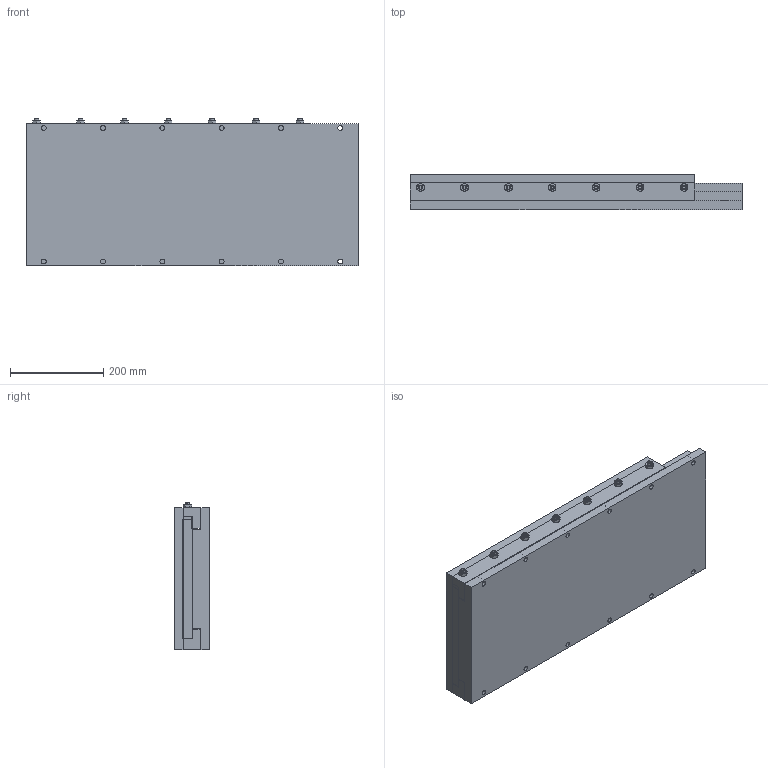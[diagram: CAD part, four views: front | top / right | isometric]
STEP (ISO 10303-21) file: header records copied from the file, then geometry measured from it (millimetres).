
FILE_DESCRIPTION (( 'STEP AP214' ), '1' );
FILE_NAME ('SW12-SL24-BL28.STEP', '2010-10-04T18:04:37', ( ' ' ), ( '' ), 'SwSTEP 2.0', 'SolidWorks 2010', '' );
FILE_SCHEMA (( 'AUTOMOTIVE_DESIGN' ));
Length unit declared in the file: inch
Products named in the file (11): _MSHXNUT_MSHXNUT 0.375-24-D-N; Gen2 Bar_12x24 BAR; Gen2 Adj Gib_12x24 ADJ GIB; _SSCUPSOC_SSCUPSKT 0.375-24x1.25-HX-N; Gen2 Baseplate_12x28 BASE; Gen2 BASE_12x28 BASE; SW12-SL24-BL28; Gen2 Top plate_12x24 TPLATE; Gen2 SADDLE_12x24 SADDLE; Gen2 Hardplate_12x28 HPLATE; Gen2 Gib_12x24 GIB
Assembly tree (22 placements, depth 3):
  SW12-SL24-BL28
    Gen2 SADDLE_12x24 SADDLE
      _SSCUPSOC_SSCUPSKT 0.375-24x1.25-HX-N  x7
      _MSHXNUT_MSHXNUT 0.375-24-D-N  x7
      Gen2 Gib_12x24 GIB
      Gen2 Top plate_12x24 TPLATE
      Gen2 Bar_12x24 BAR
      Gen2 Adj Gib_12x24 ADJ GIB
    Gen2 BASE_12x28 BASE
      Gen2 Hardplate_12x28 HPLATE
      Gen2 Baseplate_12x28 BASE
Bounding box: 711.2 x 76.2 x 316.71 mm (x, y, z)
Volume: 15503214.3 mm3; surface area: 1991734.8 mm2
Topology: 25 solids, 25 shells, 493 faces, 1104 edges, 673 vertices
Faces by surface type: plane 209, cone 154, cylinder 130
Entity records: 7663 total; most frequent: CARTESIAN_POINT 1261, DIRECTION 1220, ORIENTED_EDGE 1052, EDGE_CURVE 526, AXIS2_PLACEMENT_3D 462, VERTEX_POINT 343, EDGE_LOOP 301, VECTOR 296
